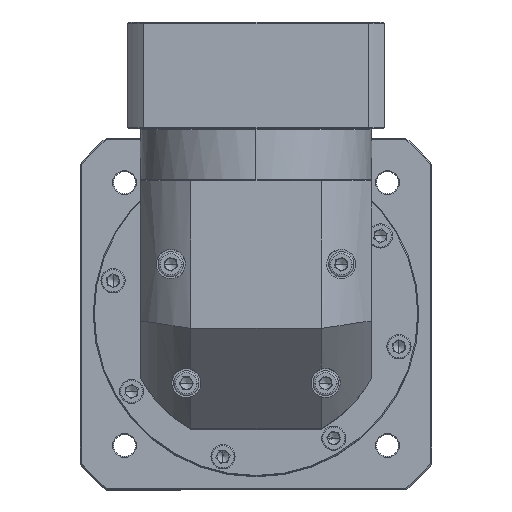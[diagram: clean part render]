
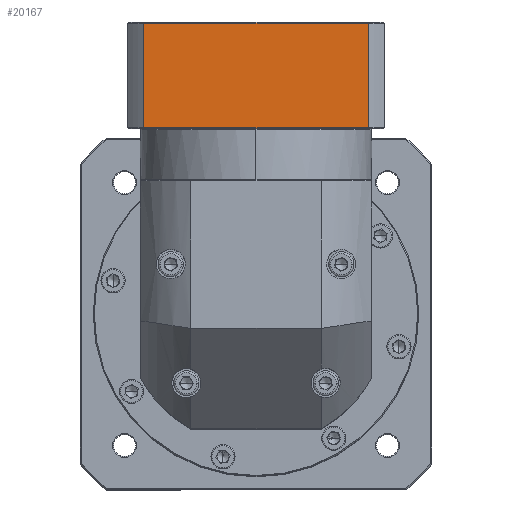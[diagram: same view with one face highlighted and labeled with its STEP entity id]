
A CAD part, top view. The second image highlights one B-rep face of the part: STEP entity #20167.
In plain terms, the highlighted planar face has unit normal (0, 0, 1).
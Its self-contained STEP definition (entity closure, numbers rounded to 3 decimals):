
#657 = LINE ( 'NONE', #6521, #14451 ) ;
#6521 = CARTESIAN_POINT ( 'NONE',  ( -99.656, -64.576, 76.704 ) ) ;
#7467 = DIRECTION ( 'NONE',  ( 0., -1., 0. ) ) ;
#10258 = VECTOR ( 'NONE', #89745, 1000. ) ;
#12304 = DIRECTION ( 'NONE',  ( 1., 0., 0. ) ) ;
#14451 = VECTOR ( 'NONE', #7467, 1000. ) ;
#17397 = VERTEX_POINT ( 'NONE', #119840 ) ;
#20167 = ADVANCED_FACE ( 'NONE', ( #119064 ), #78827, .F. ) ;
#20552 = ORIENTED_EDGE ( 'NONE', *, *, #61235, .F. ) ;
#20828 = LINE ( 'NONE', #71794, #105953 ) ;
#25728 = LINE ( 'NONE', #102823, #10258 ) ;
#33315 = CARTESIAN_POINT ( 'NONE',  ( -211.531, 178.744, 76.704 ) ) ;
#37229 = CARTESIAN_POINT ( 'NONE',  ( -99.656, 230.744, 76.704 ) ) ;
#44757 = EDGE_CURVE ( 'NONE', #105339, #140635, #81382, .T. ) ;
#46438 = ORIENTED_EDGE ( 'NONE', *, *, #93971, .F. ) ;
#47562 = ORIENTED_EDGE ( 'NONE', *, *, #62749, .F. ) ;
#56012 = DIRECTION ( 'NONE',  ( 0., 0., -1. ) ) ;
#61235 = EDGE_CURVE ( 'NONE', #140635, #17397, #657, .T. ) ;
#62749 = EDGE_CURVE ( 'NONE', #90482, #105339, #25728, .T. ) ;
#71794 = CARTESIAN_POINT ( 'NONE',  ( -219.593, 178.744, 76.704 ) ) ;
#72375 = CARTESIAN_POINT ( 'NONE',  ( -211.531, 230.744, 76.704 ) ) ;
#78827 = PLANE ( 'NONE',  #94229 ) ;
#81382 = LINE ( 'NONE', #139740, #107409 ) ;
#89745 = DIRECTION ( 'NONE',  ( 0., 1., 0. ) ) ;
#90482 = VERTEX_POINT ( 'NONE', #33315 ) ;
#93971 = EDGE_CURVE ( 'NONE', #17397, #90482, #20828, .T. ) ;
#94229 = AXIS2_PLACEMENT_3D ( 'NONE', #101588, #56012, #12304 ) ;
#94603 = DIRECTION ( 'NONE',  ( -1., 0., 0. ) ) ;
#101588 = CARTESIAN_POINT ( 'NONE',  ( -219.593, 231.244, 76.704 ) ) ;
#102823 = CARTESIAN_POINT ( 'NONE',  ( -211.531, -64.576, 76.704 ) ) ;
#105339 = VERTEX_POINT ( 'NONE', #72375 ) ;
#105953 = VECTOR ( 'NONE', #94603, 1000. ) ;
#106217 = DIRECTION ( 'NONE',  ( 1., 0., 0. ) ) ;
#107409 = VECTOR ( 'NONE', #106217, 1000. ) ;
#117886 = EDGE_LOOP ( 'NONE', ( #47562, #46438, #20552, #120453 ) ) ;
#119064 = FACE_OUTER_BOUND ( 'NONE', #117886, .T. ) ;
#119840 = CARTESIAN_POINT ( 'NONE',  ( -99.656, 178.744, 76.704 ) ) ;
#120453 = ORIENTED_EDGE ( 'NONE', *, *, #44757, .F. ) ;
#139740 = CARTESIAN_POINT ( 'NONE',  ( -219.593, 230.744, 76.704 ) ) ;
#140635 = VERTEX_POINT ( 'NONE', #37229 ) ;
